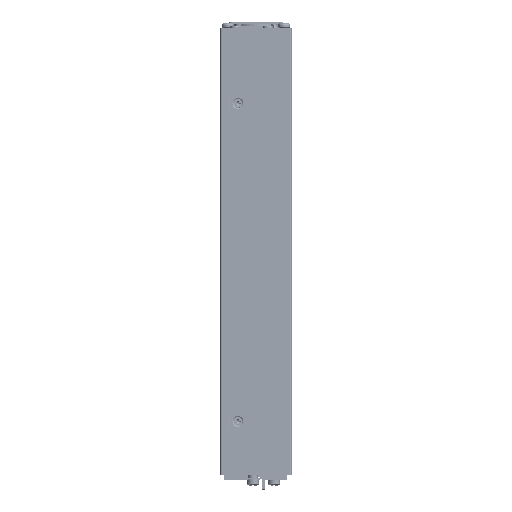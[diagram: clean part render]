
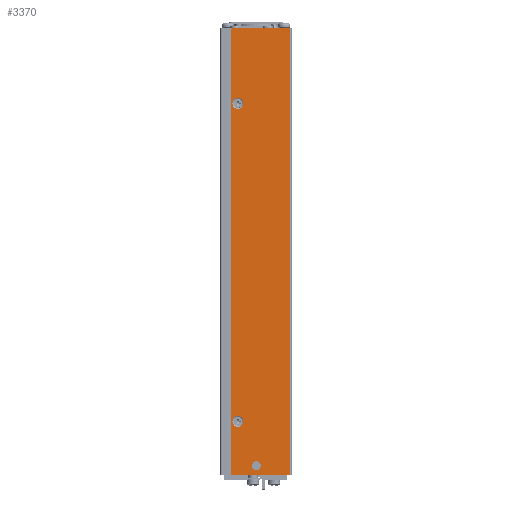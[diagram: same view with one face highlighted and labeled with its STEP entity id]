
A CAD part, left-side view. The second image highlights one B-rep face of the part: STEP entity #3370.
In plain terms, the highlighted planar face has unit normal (-1, 0, 0).
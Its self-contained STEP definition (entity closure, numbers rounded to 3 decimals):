
#353=DIRECTION('',(0.,0.,1.));
#354=VECTOR('',#353,254.);
#355=CARTESIAN_POINT('',(-44.45,1.,0.));
#356=LINE('',#355,#354);
#1015=CARTESIAN_POINT('',(-44.45,33.,1.5));
#1016=DIRECTION('',(1.,0.,0.));
#1017=DIRECTION('',(0.,0.,-1.));
#1018=AXIS2_PLACEMENT_3D('',#1015,#1016,#1017);
#1020=CARTESIAN_POINT('',(-44.45,33.,252.5));
#1021=DIRECTION('',(1.,0.,0.));
#1022=DIRECTION('',(0.,1.,0.));
#1023=AXIS2_PLACEMENT_3D('',#1020,#1021,#1022);
#1025=DIRECTION('',(0.,-1.,0.));
#1026=VECTOR('',#1025,32.);
#1027=CARTESIAN_POINT('',(-44.45,33.,254.));
#1028=LINE('',#1027,#1026);
#1029=CARTESIAN_POINT('',(-44.45,30.5,30.7));
#1030=DIRECTION('',(-1.,0.,0.));
#1031=DIRECTION('',(0.,0.,1.));
#1032=AXIS2_PLACEMENT_3D('',#1029,#1030,#1031);
#1034=CARTESIAN_POINT('',(-44.45,30.5,30.7));
#1035=DIRECTION('',(-1.,0.,0.));
#1036=DIRECTION('',(0.,0.,-1.));
#1037=AXIS2_PLACEMENT_3D('',#1034,#1035,#1036);
#1039=CARTESIAN_POINT('',(-44.45,30.5,211.));
#1040=DIRECTION('',(-1.,0.,0.));
#1041=DIRECTION('',(0.,0.,1.));
#1042=AXIS2_PLACEMENT_3D('',#1039,#1040,#1041);
#1044=CARTESIAN_POINT('',(-44.45,30.5,211.));
#1045=DIRECTION('',(-1.,0.,0.));
#1046=DIRECTION('',(0.,0.,-1.));
#1047=AXIS2_PLACEMENT_3D('',#1044,#1045,#1046);
#1049=CARTESIAN_POINT('',(-44.45,20.,5.5));
#1050=DIRECTION('',(-1.,0.,0.));
#1051=DIRECTION('',(0.,0.,1.));
#1052=AXIS2_PLACEMENT_3D('',#1049,#1050,#1051);
#1054=CARTESIAN_POINT('',(-44.45,20.,5.5));
#1055=DIRECTION('',(-1.,0.,0.));
#1056=DIRECTION('',(0.,0.,-1.));
#1057=AXIS2_PLACEMENT_3D('',#1054,#1055,#1056);
#1059=DIRECTION('',(0.,0.,-1.));
#1060=VECTOR('',#1059,251.);
#1061=CARTESIAN_POINT('',(-44.45,34.5,252.5));
#1062=LINE('',#1061,#1060);
#1079=DIRECTION('',(0.,-1.,0.));
#1080=VECTOR('',#1079,32.);
#1081=CARTESIAN_POINT('',(-44.45,33.,0.));
#1082=LINE('',#1081,#1080);
#1785=CARTESIAN_POINT('',(-44.45,1.,254.));
#1786=VERTEX_POINT('',#1785);
#1789=CARTESIAN_POINT('',(-44.45,1.,0.));
#1790=VERTEX_POINT('',#1789);
#1973=CARTESIAN_POINT('',(-44.45,33.,0.));
#1974=CARTESIAN_POINT('',(-44.45,34.5,1.5));
#1975=VERTEX_POINT('',#1973);
#1976=VERTEX_POINT('',#1974);
#1977=CARTESIAN_POINT('',(-44.45,34.5,252.5));
#1978=VERTEX_POINT('',#1977);
#1979=CARTESIAN_POINT('',(-44.45,33.,254.));
#1980=VERTEX_POINT('',#1979);
#1981=CARTESIAN_POINT('',(-44.45,30.5,33.8));
#1982=CARTESIAN_POINT('',(-44.45,30.5,27.6));
#1983=VERTEX_POINT('',#1981);
#1984=VERTEX_POINT('',#1982);
#1985=CARTESIAN_POINT('',(-44.45,30.5,214.1));
#1986=CARTESIAN_POINT('',(-44.45,30.5,207.9));
#1987=VERTEX_POINT('',#1985);
#1988=VERTEX_POINT('',#1986);
#1989=CARTESIAN_POINT('',(-44.45,20.,8.));
#1990=CARTESIAN_POINT('',(-44.45,20.,3.));
#1991=VERTEX_POINT('',#1989);
#1992=VERTEX_POINT('',#1990);
#3335=CARTESIAN_POINT('',(-44.45,1.,0.));
#3336=DIRECTION('',(1.,0.,0.));
#3337=DIRECTION('',(0.,1.,0.));
#3338=AXIS2_PLACEMENT_3D('',#3335,#3336,#3337);
#3339=PLANE('',#3338);
#3340=ORIENTED_EDGE('',*,*,#3325,.T.);
#3342=ORIENTED_EDGE('',*,*,#3341,.F.);
#3344=ORIENTED_EDGE('',*,*,#3343,.T.);
#3346=ORIENTED_EDGE('',*,*,#3345,.T.);
#3347=ORIENTED_EDGE('',*,*,#2378,.F.);
#3349=ORIENTED_EDGE('',*,*,#3348,.F.);
#3350=EDGE_LOOP('',(#3340,#3342,#3344,#3346,#3347,#3349));
#3351=FACE_OUTER_BOUND('',#3350,.F.);
#3353=ORIENTED_EDGE('',*,*,#3352,.T.);
#3355=ORIENTED_EDGE('',*,*,#3354,.T.);
#3356=EDGE_LOOP('',(#3353,#3355));
#3357=FACE_BOUND('',#3356,.F.);
#3359=ORIENTED_EDGE('',*,*,#3358,.T.);
#3361=ORIENTED_EDGE('',*,*,#3360,.T.);
#3362=EDGE_LOOP('',(#3359,#3361));
#3363=FACE_BOUND('',#3362,.F.);
#3365=ORIENTED_EDGE('',*,*,#3364,.T.);
#3367=ORIENTED_EDGE('',*,*,#3366,.T.);
#3368=EDGE_LOOP('',(#3365,#3367));
#3369=FACE_BOUND('',#3368,.F.);
#3370=ADVANCED_FACE('',(#3351,#3357,#3363,#3369),#3339,.F.);
#1019=CIRCLE('',#1018,1.5);
#1024=CIRCLE('',#1023,1.5);
#1033=CIRCLE('',#1032,3.1);
#1038=CIRCLE('',#1037,3.1);
#1043=CIRCLE('',#1042,3.1);
#1048=CIRCLE('',#1047,3.1);
#1053=CIRCLE('',#1052,2.5);
#1058=CIRCLE('',#1057,2.5);
#2378=EDGE_CURVE('',#1790,#1786,#356,.T.);
#3325=EDGE_CURVE('',#1975,#1976,#1019,.T.);
#3341=EDGE_CURVE('',#1978,#1976,#1062,.T.);
#3343=EDGE_CURVE('',#1978,#1980,#1024,.T.);
#3345=EDGE_CURVE('',#1980,#1786,#1028,.T.);
#3348=EDGE_CURVE('',#1975,#1790,#1082,.T.);
#3352=EDGE_CURVE('',#1983,#1984,#1033,.T.);
#3354=EDGE_CURVE('',#1984,#1983,#1038,.T.);
#3358=EDGE_CURVE('',#1987,#1988,#1043,.T.);
#3360=EDGE_CURVE('',#1988,#1987,#1048,.T.);
#3364=EDGE_CURVE('',#1991,#1992,#1053,.T.);
#3366=EDGE_CURVE('',#1992,#1991,#1058,.T.);
